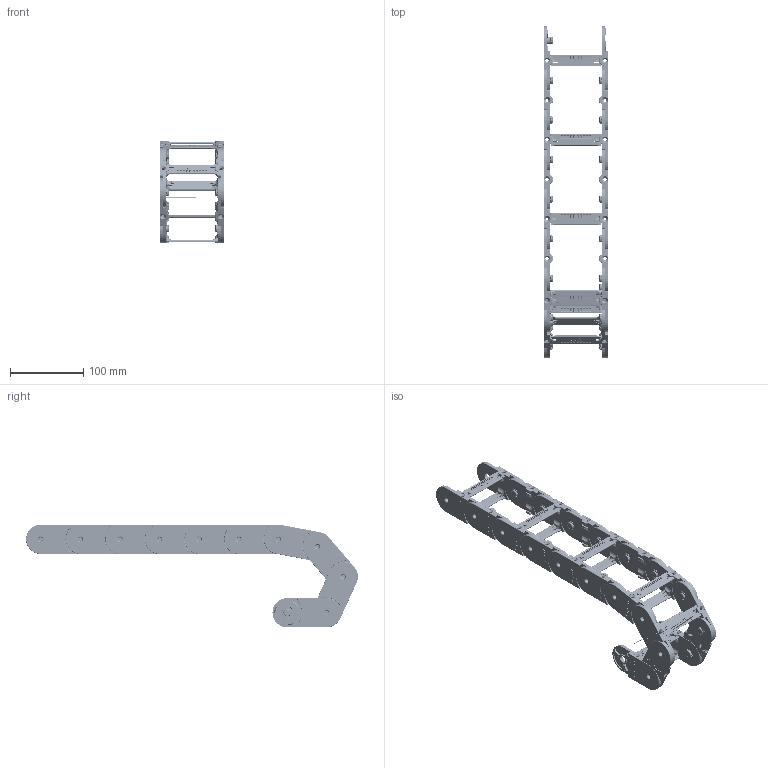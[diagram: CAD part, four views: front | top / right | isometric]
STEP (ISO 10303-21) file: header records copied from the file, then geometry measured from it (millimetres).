
FILE_DESCRIPTION((''),'2;1');
FILE_NAME('E:\Uebbing\PARAMETERKETTEN\PKK\PKK 140\PKK 140 R50 vereinfacht.stp','2018-09-25T10:45:37',('Nutzer'),(''),'Autodesk Inventor 10','Autodesk Inventor 10','');
FILE_SCHEMA(('AUTOMOTIVE_DESIGN { 1 0 10303 214 1 1 1 1 }'));
Length unit declared in the file: millimetre
Products named in the file (8): PKK 140 PARAMETRISCH; PKK 140 Glied ohne STEG; PKK 140 Hauptlasche R60; PKK 120 Spreizriegel; Achse; PKK 140 Glied; PKK 120 Steg 70; PKK 140 Hauptlasche R50 3 Anschläge
Assembly tree (21 placements, depth 3):
  PKK 140 PARAMETRISCH
    PKK 140 Glied ohne STEG  x4
      PKK 140 Hauptlasche R60
      PKK 120 Spreizriegel
    Achse
    PKK 140 Glied  x6
      PKK 120 Steg 70
      PKK 140 Hauptlasche R50 3 Anschläge
      PKK 120 Spreizriegel
Bounding box: 88 x 452.3 x 140 mm (x, y, z)
Volume: 371407.4 mm3; surface area: 250547.8 mm2
Topology: 53 solids, 53 shells, 15491 faces, 41328 edges, 26727 vertices
Faces by surface type: plane 7626, cylinder 4273, bspline 2564, torus 612, cone 312, sphere 104
Full cylindrical faces by diameter (mm): 1 x1, 1.474 x20, 2.589 x20, 4.2 x20, 6 x20, 8.2 x20, 10 x20, 10.1 x20
Entity records: 47292 total; most frequent: CARTESIAN_POINT 13720, ORIENTED_EDGE 7224, DIRECTION 6423, EDGE_CURVE 3612, VERTEX_POINT 2365, VECTOR 2299, LINE 2299, AXIS2_PLACEMENT_3D 2062
